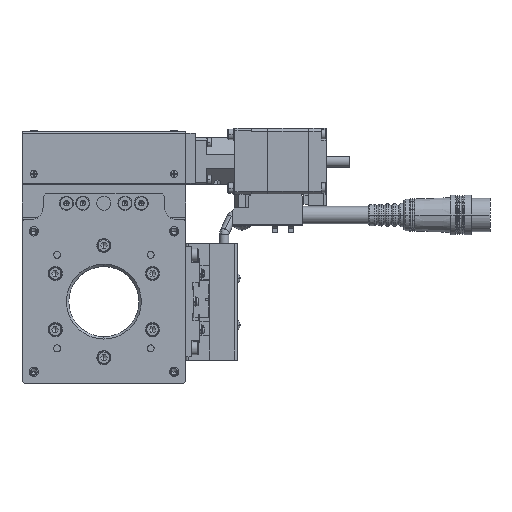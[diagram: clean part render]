
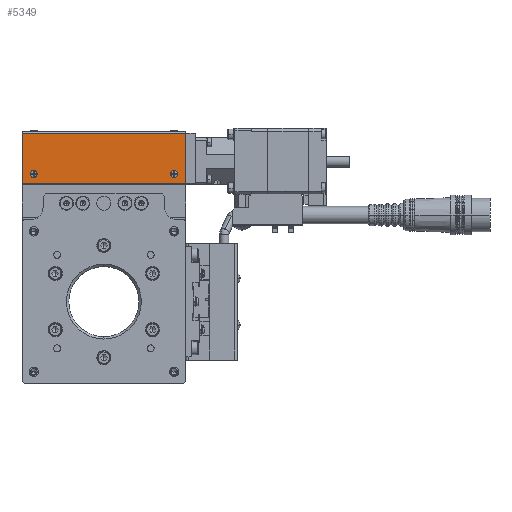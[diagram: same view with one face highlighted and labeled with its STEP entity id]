
A CAD part, top view. The second image highlights one B-rep face of the part: STEP entity #5349.
In plain terms, the highlighted planar face has unit normal (0, 0, 1).
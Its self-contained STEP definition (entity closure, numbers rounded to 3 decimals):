
#516 = DIRECTION ( 'NONE',  ( 0., 0., 1. ) ) ;
#675 = EDGE_LOOP ( 'NONE', ( #12973, #2273 ) ) ;
#1006 = CARTESIAN_POINT ( 'NONE',  ( -16.85, 94.108, 219.457 ) ) ;
#1143 = ORIENTED_EDGE ( 'NONE', *, *, #62711, .F. ) ;
#1218 = DIRECTION ( 'NONE',  ( -1., 0., 0. ) ) ;
#1766 = DIRECTION ( 'NONE',  ( 0., 0., 1. ) ) ;
#1820 = CARTESIAN_POINT ( 'NONE',  ( -4.848, 94.108, 219.457 ) ) ;
#2002 = PLANE ( 'NONE',  #31007 ) ;
#2179 = DIRECTION ( 'NONE',  ( 1., 0., 0. ) ) ;
#2273 = ORIENTED_EDGE ( 'NONE', *, *, #13337, .F. ) ;
#2635 = DIRECTION ( 'NONE',  ( -1., 0., 0. ) ) ;
#3207 = DIRECTION ( 'NONE',  ( 0., 0., 1. ) ) ;
#5349 = ADVANCED_FACE ( 'NONE', ( #40860, #10613, #44665 ), #2002, .F. ) ;
#6674 = CARTESIAN_POINT ( 'NONE',  ( -8.348, 76.608, 219.457 ) ) ;
#7867 = VERTEX_POINT ( 'NONE', #6674 ) ;
#8910 = EDGE_CURVE ( 'NONE', #7867, #42795, #19227, .T. ) ;
#8940 = CARTESIAN_POINT ( 'NONE',  ( -74.848, 72.608, 219.457 ) ) ;
#9270 = VERTEX_POINT ( 'NONE', #39353 ) ;
#10613 = FACE_BOUND ( 'NONE', #675, .T. ) ;
#12499 = EDGE_CURVE ( 'NONE', #15004, #9270, #22836, .T. ) ;
#12973 = ORIENTED_EDGE ( 'NONE', *, *, #12499, .F. ) ;
#13337 = EDGE_CURVE ( 'NONE', #9270, #15004, #38584, .T. ) ;
#15004 = VERTEX_POINT ( 'NONE', #19920 ) ;
#16027 = LINE ( 'NONE', #8940, #53140 ) ;
#19042 = VECTOR ( 'NONE', #1218, 1000. ) ;
#19227 = CIRCLE ( 'NONE', #60401, 1.5 ) ;
#19920 = CARTESIAN_POINT ( 'NONE',  ( -68.348, 76.608, 219.457 ) ) ;
#21194 = ORIENTED_EDGE ( 'NONE', *, *, #34759, .F. ) ;
#22836 = CIRCLE ( 'NONE', #57360, 1.5 ) ;
#23956 = LINE ( 'NONE', #51001, #53499 ) ;
#24023 = CIRCLE ( 'NONE', #53769, 1.5 ) ;
#24942 = DIRECTION ( 'NONE',  ( 1., 0., 0. ) ) ;
#25042 = CARTESIAN_POINT ( 'NONE',  ( -69.848, 76.608, 219.457 ) ) ;
#25162 = CARTESIAN_POINT ( 'NONE',  ( -9.848, 76.608, 219.457 ) ) ;
#25376 = ORIENTED_EDGE ( 'NONE', *, *, #8910, .F. ) ;
#26665 = CARTESIAN_POINT ( 'NONE',  ( -4.848, 94.108, 219.457 ) ) ;
#26922 = DIRECTION ( 'NONE',  ( -1., 0., 0. ) ) ;
#27091 = CARTESIAN_POINT ( 'NONE',  ( -74.848, 72.608, 219.457 ) ) ;
#29438 = VERTEX_POINT ( 'NONE', #27091 ) ;
#29844 = CARTESIAN_POINT ( 'NONE',  ( -74.848, 94.108, 219.457 ) ) ;
#31007 = AXIS2_PLACEMENT_3D ( 'NONE', #55280, #35801, #2635 ) ;
#32157 = CARTESIAN_POINT ( 'NONE',  ( -69.848, 76.608, 219.457 ) ) ;
#32307 = DIRECTION ( 'NONE',  ( 0., -1., 0. ) ) ;
#33281 = CARTESIAN_POINT ( 'NONE',  ( -4.848, 72.608, 219.457 ) ) ;
#34224 = DIRECTION ( 'NONE',  ( 0., 0., 1. ) ) ;
#34251 = AXIS2_PLACEMENT_3D ( 'NONE', #25042, #516, #53793 ) ;
#34759 = EDGE_CURVE ( 'NONE', #42795, #7867, #24023, .T. ) ;
#34851 = EDGE_CURVE ( 'NONE', #39280, #29438, #23956, .T. ) ;
#35540 = ORIENTED_EDGE ( 'NONE', *, *, #41151, .F. ) ;
#35801 = DIRECTION ( 'NONE',  ( 0., 0., -1. ) ) ;
#38584 = CIRCLE ( 'NONE', #34251, 1.5 ) ;
#39280 = VERTEX_POINT ( 'NONE', #33281 ) ;
#39353 = CARTESIAN_POINT ( 'NONE',  ( -71.348, 76.608, 219.457 ) ) ;
#39420 = VECTOR ( 'NONE', #32307, 1000. ) ;
#40860 = FACE_BOUND ( 'NONE', #53391, .T. ) ;
#40960 = VERTEX_POINT ( 'NONE', #1820 ) ;
#41151 = EDGE_CURVE ( 'NONE', #29438, #48215, #16027, .T. ) ;
#42795 = VERTEX_POINT ( 'NONE', #46606 ) ;
#43140 = ORIENTED_EDGE ( 'NONE', *, *, #34851, .F. ) ;
#44665 = FACE_OUTER_BOUND ( 'NONE', #50831, .T. ) ;
#45579 = LINE ( 'NONE', #1006, #19042 ) ;
#46606 = CARTESIAN_POINT ( 'NONE',  ( -11.348, 76.608, 219.457 ) ) ;
#47877 = DIRECTION ( 'NONE',  ( 0., 1., 0. ) ) ;
#48215 = VERTEX_POINT ( 'NONE', #29844 ) ;
#50186 = CARTESIAN_POINT ( 'NONE',  ( -9.848, 76.608, 219.457 ) ) ;
#50831 = EDGE_LOOP ( 'NONE', ( #1143, #58183, #35540, #43140 ) ) ;
#51001 = CARTESIAN_POINT ( 'NONE',  ( -4.848, 72.608, 219.457 ) ) ;
#53140 = VECTOR ( 'NONE', #47877, 1000. ) ;
#53391 = EDGE_LOOP ( 'NONE', ( #25376, #21194 ) ) ;
#53499 = VECTOR ( 'NONE', #26922, 1000. ) ;
#53769 = AXIS2_PLACEMENT_3D ( 'NONE', #50186, #1766, #2179 ) ;
#53793 = DIRECTION ( 'NONE',  ( 1., 0., 0. ) ) ;
#53830 = LINE ( 'NONE', #26665, #39420 ) ;
#55280 = CARTESIAN_POINT ( 'NONE',  ( -16.85, 63.423, 219.457 ) ) ;
#57360 = AXIS2_PLACEMENT_3D ( 'NONE', #32157, #3207, #61785 ) ;
#58183 = ORIENTED_EDGE ( 'NONE', *, *, #62150, .T. ) ;
#60401 = AXIS2_PLACEMENT_3D ( 'NONE', #25162, #34224, #24942 ) ;
#61785 = DIRECTION ( 'NONE',  ( 1., 0., 0. ) ) ;
#62150 = EDGE_CURVE ( 'NONE', #40960, #48215, #45579, .T. ) ;
#62711 = EDGE_CURVE ( 'NONE', #40960, #39280, #53830, .T. ) ;
